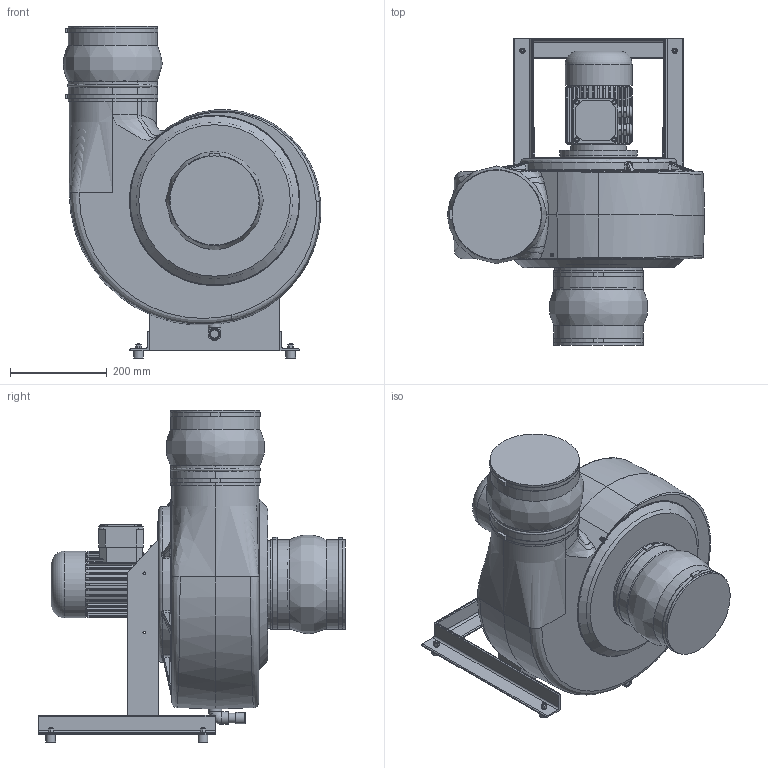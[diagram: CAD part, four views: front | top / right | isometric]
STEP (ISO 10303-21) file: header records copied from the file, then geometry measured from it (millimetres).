
FILE_DESCRIPTION( ( 'Unknown' ), '1' );
FILE_NAME( 'K:/HOME/HLT_CAD/Z/HF/3D/Zusammenstellung/HFR/HFR 15_17/HFR...-15D/DS_1/HFR_180-15D/GL360/HFR_180-15D_DS1_GL_360_071.stp', 'Unknown', ( 'Unknown' ), ( 'Unknown' ), 'PSStep 17.0.49', 'Unknown', ' ' );
FILE_SCHEMA( ( 'AUTOMOTIVE_DESIGN { 1 0 10303 214 1 1 1 1 }' ) );
Length unit declared in the file: millimetre
Products named in the file (30): Laufrad 180; Nabe 160-315; Deckscheibe 180; 1108_18; 5217_Laufradbefestigung; 5217_Drehteil; 5217_Flachdichtung_Ø32; 5217_Schraubkappe; 5217_Flachdichtung_Ø63; 5159_Kondensatablauf_125-315; Winkel_90°_G1_2; Stopfen_G1_2-oa4; Rohr_20; Verschlusskappe_20; 6203_Kugelmanschette; 6203_Manschettenband_HFR180; 6203_Schelle_HFR180; 5294_Gestell; Angle 40x40x4-oa0; Angle 40x40x4-oa1; Angle 40x40x4-oa2; 5294_Gehäusebefestigung-oa3; Assem1; 180 mit laufrad HF R 180; 6611_Motorring_Bg71; B5_71a_2HIHI; HFR 180_GL_abgeschn; Schwidä_20x15; 6kant_M6
Assembly tree (37 placements, depth 3):
  Assem1
    180 mit laufrad HF R 180
    6611_Motorring_Bg71
    B5_71a_2HIHI
    HFR 180_GL_abgeschn
    Schwidä_20x15  x4
    6kant_M6  x4
    5294_Gestell
      Angle 40x40x4-oa0
      Angle 40x40x4-oa1
      Angle 40x40x4-oa2
      5294_Gehäusebefestigung-oa3
    Laufrad 180
      Nabe 160-315
      Laufrad 180
      Deckscheibe 180
      1108_18
    5159_Kondensatablauf_125-315
      Winkel_90°_G1_2
      Stopfen_G1_2-oa4
      Rohr_20
      Verschlusskappe_20
    6203_Kugelmanschette  x2
      6203_Manschettenband_HFR180
      6203_Schelle_HFR180
    5217_Laufradbefestigung
      5217_Drehteil
      5217_Flachdichtung_Ø32
      5217_Schraubkappe
      5217_Flachdichtung_Ø63
Bounding box: 530.89 x 633 x 684.95 mm (x, y, z)
Volume: 17008549.7 mm3; surface area: 2913370.8 mm2
Topology: 33 solids, 34 shells, 1895 faces, 4479 edges, 2823 vertices
Faces by surface type: plane 900, cylinder 477, bspline 236, cone 129, torus 115, offset 28, revolution 6, sphere 4
Full cylindrical faces by diameter (mm): 3.5 x3, 4.134 x1, 4.917 x4, 4.92 x4, 5.5 x4, 6 x8, 8 x6, 9 x6, 10 x8, 10.5 x1, 11 x8, 12 x49, 13 x57, 13.5 x15, 14 x1, 16 x2, 16.8 x1, 17 x9, 20 x8, 20.955 x1, 22.212 x1, 23 x1, 24 x4, 25 x1, 26.5 x2, 30.291 x1, 32 x1, 33.25 x1, 37 x1, 40 x1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
Entity records: 127913 total; most frequent: CARTESIAN_POINT 74520, ORIENTED_EDGE 7722, DIRECTION 7379, EDGE_CURVE 3861, AXIS2_PLACEMENT_3D 2945, VERTEX_POINT 2600, EDGE_LOOP 2395, FACE_OUTER_BOUND 2098
